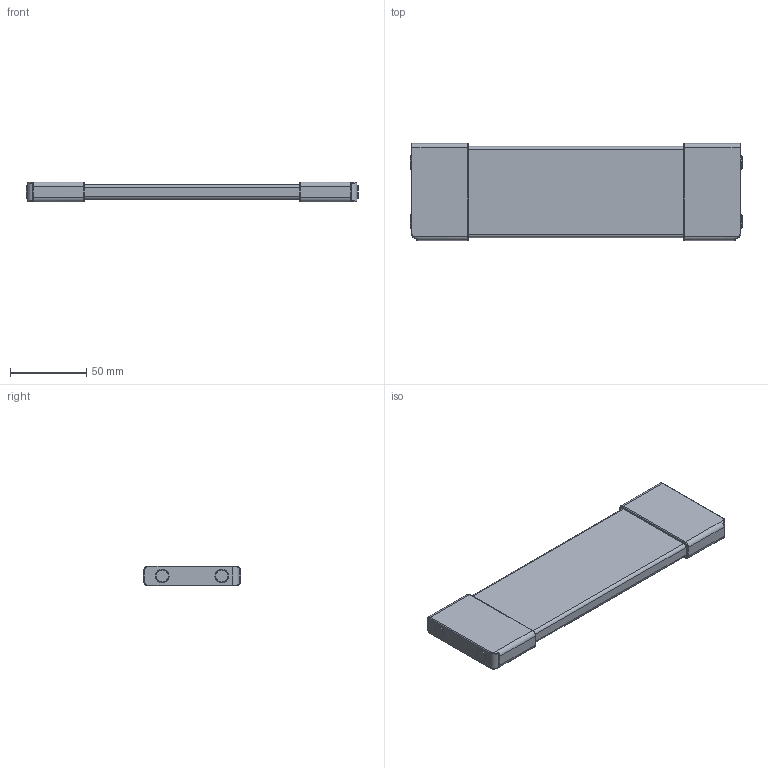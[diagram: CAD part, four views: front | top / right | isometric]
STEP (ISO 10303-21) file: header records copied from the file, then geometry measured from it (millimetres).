
FILE_DESCRIPTION (( 'STEP AP214' ), '1' );
FILE_NAME ('Schubkastenteiler_PROKAB_300.step', '2009-11-04T15:16:37', ( 'Waldinger Reinhard' ), ( 'Grass GmbH' ), 'SwSTEP 2.0', 'SolidWorks 2009', '' );
FILE_SCHEMA (( 'AUTOMOTIVE_DESIGN' ));
Length unit declared in the file: millimetre
Products named in the file (1): Schubkastenteiler_PROKAB_300
Bounding box: 217.9 x 63.7 x 13 mm (x, y, z)
Volume: 143934 mm3; surface area: 32322.2 mm2
Topology: 1 solids, 1 shells, 92 faces, 208 edges, 124 vertices
Faces by surface type: cylinder 38, torus 28, plane 22, bspline 4
Entity records: 3210 total; most frequent: CARTESIAN_POINT 1069, DIRECTION 486, ORIENTED_EDGE 416, EDGE_CURVE 208, AXIS2_PLACEMENT_3D 205, VERTEX_POINT 124, CIRCLE 116, EDGE_LOOP 98
